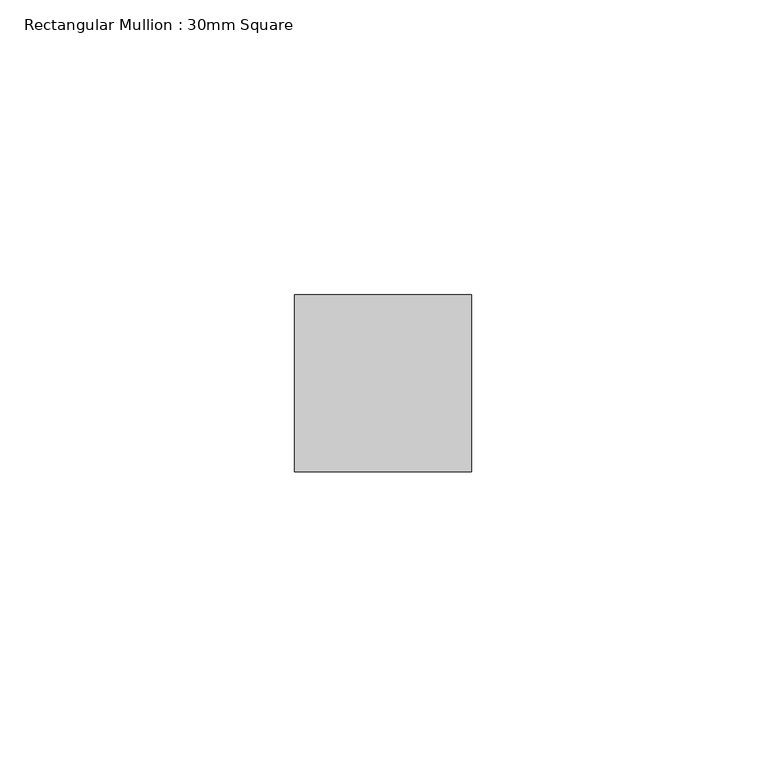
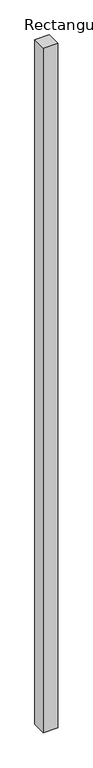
"""IFC4 building model written with IfcOpenShell, lengths in millimetres: member geometry, Rectangular Mullion : 30mm Square."""

import ifcopenshell
import ifcopenshell.guid

model = None  # the IFC model being written
_history = None  # IfcOwnerHistory: only IFC2X3 demands one
_inside = {}  # id of a spatial element -> (the spatial element, [elements in it])
_under = {}  # id of a project, library or spatial element -> (it, [spatial elements below it])
_declared = {}  # id of a project -> (the project, [libraries it declares])
_typed = {}  # id of a type object -> (the type object, [elements of that type])
_made_of = {}  # id of a material, layer set ... -> (it, [elements and type objects made of it])


def new_model(schema):
    """Start an empty IFC model of exactly this schema.

    Asked for "IFC4X3", IfcOpenShell would pick the latest addendum, in which some entities
    have other attributes; the version numbers below select the first issue.
    IFC2X3 requires an IfcOwnerHistory on every rooted entity: one is made here for all.
    """
    global model, _history
    if schema == "IFC4X3":
        model = ifcopenshell.file(schema_version=(4, 3, 0, 0))
    else:
        model = ifcopenshell.file(schema=schema)
    _inside.clear()
    _under.clear()
    _declared.clear()
    _typed.clear()
    _made_of.clear()
    _history = None
    if model.schema == "IFC2X3":
        org = make("IfcOrganization", Name="unknown")
        user = make(
            "IfcPersonAndOrganization",
            ThePerson=make("IfcPerson", FamilyName="unknown"),
            TheOrganization=org,
        )
        app = make(
            "IfcApplication",
            ApplicationDeveloper=org,
            Version="unknown",
            ApplicationFullName="unknown",
            ApplicationIdentifier="unknown",
        )
        _history = make(
            "IfcOwnerHistory",
            OwningUser=user,
            OwningApplication=app,
            ChangeAction="ADDED",
            CreationDate=0,
        )
    return model


def make(cls, **values):
    """One entity of the class cls with the attributes given. An attribute that is None is left unset."""
    return model.create_entity(
        cls, **{name: value for name, value in values.items() if value is not None}
    )


def rooted(cls, **values):
    """An entity with a GlobalId (a new one), such as an element, a storey or a relation."""
    return make(cls, GlobalId=ifcopenshell.guid.new(), OwnerHistory=_history, **values)


def si_unit(unit_type, name, prefix=None):
    """IfcSIUnit, for example si_unit("LENGTHUNIT", "METRE", prefix="MILLI")."""
    return make("IfcSIUnit", UnitType=unit_type, Prefix=prefix, Name=name)


def assignment(units):
    """IfcUnitAssignment: the units of a project."""
    return None if units is None else make("IfcUnitAssignment", Units=units)


def point(xyz):
    """IfcCartesianPoint."""
    return None if xyz is None else make("IfcCartesianPoint", Coordinates=xyz)


def direction(xyz):
    """IfcDirection."""
    return None if xyz is None else make("IfcDirection", DirectionRatios=xyz)


def frame(location, z_axis=None, x_axis=None):
    """IfcAxis2Placement3D, a coordinate frame: its origin and axes. An axis left out is left unset."""
    return make(
        "IfcAxis2Placement3D",
        Location=point(location),
        Axis=direction(z_axis),
        RefDirection=direction(x_axis),
    )


def origin():
    """The frame at (0, 0, 0) with its axes left unset."""
    return frame((0.0, 0.0, 0.0))


def place(relative_to, where):
    """IfcLocalPlacement: puts the frame where relative to a parent placement (None: the world)."""
    return make(
        "IfcLocalPlacement", PlacementRelTo=relative_to, RelativePlacement=where
    )


def context(
    kind, dimensions, precision=None, world=None, true_north=None, identifier=None
):
    """IfcGeometricRepresentationContext, for example the 3D "Model" context."""
    return make(
        "IfcGeometricRepresentationContext",
        ContextIdentifier=identifier,
        ContextType=kind,
        CoordinateSpaceDimension=dimensions,
        Precision=precision,
        WorldCoordinateSystem=world,
        TrueNorth=true_north,
    )


def project(units=None, contexts=None):
    """IfcProject with its units and contexts."""
    return rooted(
        "IfcProject",
        Name="project",
        RepresentationContexts=contexts,
        UnitsInContext=assignment(units),
    )


def spatial(cls, under=None, at=None, **own):
    """A site, building, storey or space (cls), placed at a placement, below another one or the project."""
    s = rooted(cls, ObjectPlacement=at, **own)
    if under is not None:
        _under.setdefault(under.id(), (under, []))[1].append(s)
    return s


def polyline(points):
    """IfcPolyline through the points."""
    return make("IfcPolyline", Points=[point(p) for p in points])


def outline(outer, holes=None, kind="AREA"):
    """IfcArbitraryClosedProfileDef: a profile drawn as a closed curve; with holes, ...WithVoids."""
    if holes is None:
        return make("IfcArbitraryClosedProfileDef", ProfileType=kind, OuterCurve=outer)
    return make(
        "IfcArbitraryProfileDefWithVoids",
        ProfileType=kind,
        OuterCurve=outer,
        InnerCurves=holes,
    )


def extrude(swept, where, along, depth):
    """IfcExtrudedAreaSolid: the profile swept, set in the frame where, extruded along a direction by depth."""
    return make(
        "IfcExtrudedAreaSolid",
        SweptArea=swept,
        Position=where,
        ExtrudedDirection=direction(along),
        Depth=depth,
    )


def shape(context_of_items, identifier, shape_type, items):
    """IfcShapeRepresentation: the items that make up one representation, for example the "Body"."""
    return make(
        "IfcShapeRepresentation",
        ContextOfItems=context_of_items,
        RepresentationIdentifier=identifier,
        RepresentationType=shape_type,
        Items=items,
    )


def source(mapping_origin, context_of_items, identifier, shape_type, items):
    """IfcRepresentationMap: a shape defined once, which mapped items show again and again."""
    return make(
        "IfcRepresentationMap",
        MappingOrigin=mapping_origin,
        MappedRepresentation=shape(context_of_items, identifier, shape_type, items),
    )


def transform(
    local_origin,
    x_axis=None,
    y_axis=None,
    z_axis=None,
    scale=None,
    scale2=None,
    scale3=None,
    uniform=True,
):
    """IfcCartesianTransformationOperator3D, or its non-uniform kind. x_axis, y_axis, z_axis: its Axis1, 2, 3."""
    if uniform:
        return make(
            "IfcCartesianTransformationOperator3D",
            Axis1=direction(x_axis),
            Axis2=direction(y_axis),
            LocalOrigin=point(local_origin),
            Scale=scale,
            Axis3=direction(z_axis),
        )
    return make(
        "IfcCartesianTransformationOperator3DnonUniform",
        Axis1=direction(x_axis),
        Axis2=direction(y_axis),
        LocalOrigin=point(local_origin),
        Scale=scale,
        Axis3=direction(z_axis),
        Scale2=scale2,
        Scale3=scale3,
    )


def mapped(mapping_source, mapping_target):
    """IfcMappedItem: shows the shape of a source again, moved by a transform."""
    return make(
        "IfcMappedItem", MappingSource=mapping_source, MappingTarget=mapping_target
    )


def made_of(thing, what):
    """Note that an element or type object is made of a material, layer set ...; save() writes the relation."""
    if what is not None:
        _made_of.setdefault(what.id(), (what, []))[1].append(thing)
    return thing


def element(
    cls,
    number,
    at=None,
    inside=None,
    cuts=None,
    type_object=None,
    material=None,
    context=None,
    identifier="Body",
    shape_type=None,
    held_by="IfcProductDefinitionShape",
    body=None,
    shapes=None,
    **own,
):
    """One element of the class cls, such as IfcWall. Its Tag is "e" and its number.

    at: its placement. inside: the storey or other place that contains it. cuts: it is an
    opening in that element (IfcRelVoidsElement). A single representation is given by context,
    identifier, shape_type and body (its items); several are given by shapes. held_by: the class
    of the entity that holds the representations. save() writes the other relations.
    """
    e = rooted(cls, Tag="e%d" % number, ObjectPlacement=at, **own)
    if body is not None:
        shapes = [shape(context, identifier, shape_type, body)]
    if shapes is not None:
        e.Representation = make(held_by, Representations=shapes)
    if inside is not None:
        _inside.setdefault(inside.id(), (inside, []))[1].append(e)
    if cuts is not None:
        rooted(
            "IfcRelVoidsElement", RelatingBuildingElement=cuts, RelatedOpeningElement=e
        )
    if type_object is not None:
        _typed.setdefault(type_object.id(), (type_object, []))[1].append(e)
    return made_of(e, material)


def aggregate(whole, parts):
    """IfcRelAggregates: a whole, such as a stair, and the parts it consists of."""
    return rooted("IfcRelAggregates", RelatingObject=whole, RelatedObjects=parts)


def save(model, path):
    """Write the relations noted so far, then the file.

    IfcRelAggregates (storeys below a building ...), IfcRelContainedInSpatialStructure (elements
    in a storey), IfcRelDefinesByType, IfcRelAssociatesMaterial and IfcRelDeclares: one each for
    every whole, place, type object, material and project.
    """
    for whole, parts in _under.values():
        aggregate(whole, parts)
    for where, things in _inside.values():
        rooted(
            "IfcRelContainedInSpatialStructure",
            RelatedElements=things,
            RelatingStructure=where,
        )
    for kind, things in _typed.values():
        rooted("IfcRelDefinesByType", RelatedObjects=things, RelatingType=kind)
    for what, things in _made_of.values():
        rooted("IfcRelAssociatesMaterial", RelatedObjects=things, RelatingMaterial=what)
    for by, libraries in _declared.values():
        rooted("IfcRelDeclares", RelatingContext=by, RelatedDefinitions=libraries)
    model.write(path)


def rectangular_mullion_30mm_square_c12cb2e3(model_context):
    return source(origin(), model_context, "Body", "SweptSolid", [
        extrude(outline(polyline([(15.0, 15.0), (15.0, -15.0), (-15.0, -15.0), (-15.0, 15.0), (15.0, 15.0)])), frame((0.0, 0.0, -1493.077283), z_axis=(0.0, 0.0, 1.0), x_axis=(1.0, 0.0, 0.0)), (0.0, 0.0, 1.0), 1493.077283),
    ])


if __name__ == "__main__":
    model = new_model("IFC4")
    model_context = context("Model", 3, world=origin())
    ifc_project = project(units=[si_unit("LENGTHUNIT", "METRE", prefix="MILLI")], contexts=[model_context])
    site = spatial("IfcSite", under=ifc_project)
    building = spatial("IfcBuilding", under=site)
    placement = place(None, origin())
    rectangular_mullion_30mm_square_shape = rectangular_mullion_30mm_square_c12cb2e3(model_context)
    element("IfcMember", 1, ObjectType="Rectangular Mullion : 30mm Square", at=placement, inside=building, context=model_context, shape_type="MappedRepresentation", body=[
        mapped(rectangular_mullion_30mm_square_shape, transform((0.0, 0.0, 0.0), x_axis=(1.0, 0.0, 0.0), y_axis=(0.0, 1.0, 0.0), z_axis=(0.0, 0.0, 1.0))),
    ])
    save(model, "model.ifc")
